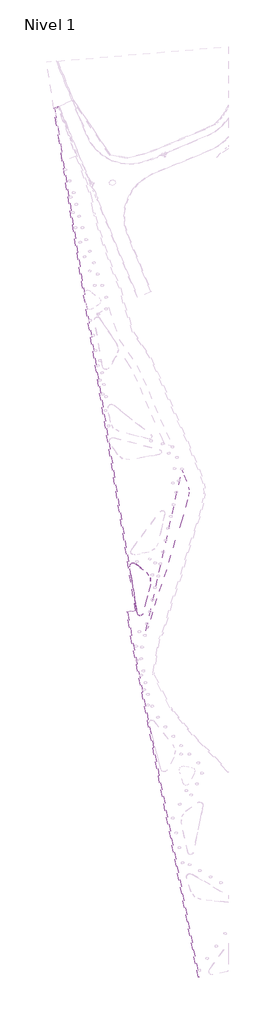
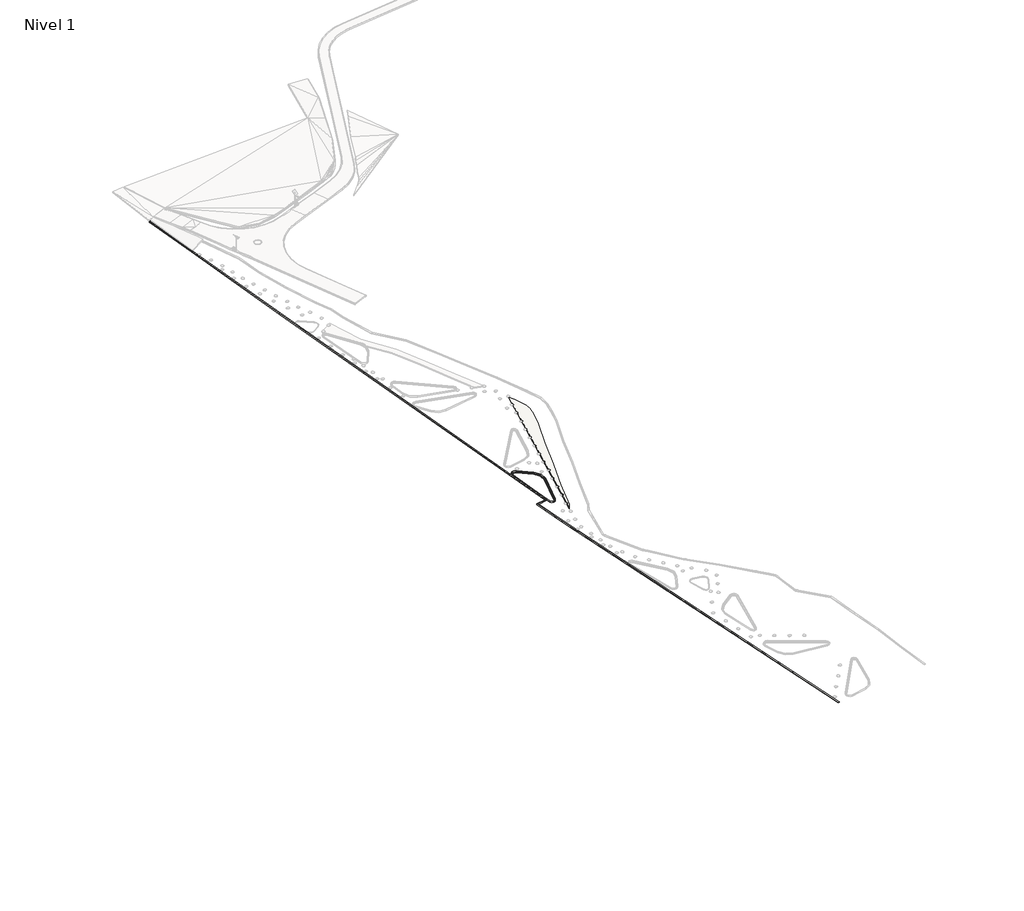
# One storey, part 24 of 45: 4 slabs.
"""IFC4 building model written with IfcOpenShell, lengths in millimetres."""

from ifc_helpers import new_model, si_unit, point, frame, frame_2d, origin, place, context, project, spatial, polyline, circle_curve, trimmed, segment, composite_curve, outline, extrude, faceted_brep, element, save
from ifc_brep_helpers import plane_surface, cylinder_surface, revolved_surface, advanced_brep

model = new_model("IFC4")

# Units and contexts
model_context = context("Model", 3, world=origin())
ifc_project = project(units=[si_unit("LENGTHUNIT", "METRE", prefix="MILLI")], contexts=[model_context])

# Site, building, storey
site = spatial("IfcSite", under=ifc_project)
building = spatial("IfcBuilding", under=site)
storey = spatial("IfcBuildingStorey", under=building, Name="Nivel 1", Elevation=0.0)

# Slabs
placement = place(None, origin())
element("IfcSlab", 1, ObjectType="Chilca", at=placement, inside=storey, context=model_context, shape_type="SweptSolid", body=[
    extrude(outline(polyline([(-342390.3113865, 278379.0355498), (-341710.2127864, 276709.9629907), (-340272.4821042, 272784.9727819), (-340145.4888071, 271013.0021801), (-340555.1233673, 268580.180625), (-341879.159472, 263632.5932877), (-344759.6066117, 255220.7119992), (-347573.6036676, 245605.4931419), (-350749.1086987, 236127.2612741), (-353439.4417813, 227024.3773913), (-354243.1568311, 225601.5487461), (-342390.3113865, 278379.0355498)])), frame((0.0, 0.0, 3200.0), z_axis=(0.0, 0.0, 1.0), x_axis=(1.0, 0.0, 0.0)), (0.0, 0.0, 1.0), 300.0),
])
element("IfcSlab", 2, ObjectType="Tierra de Chacra (20cm)", at=placement, inside=storey, context=model_context, shape_type="AdvancedBrep", body=[
    advanced_brep(
    [(-356995.0923187, 231145.6799667, 3000.0), (-359547.7997085, 246652.9712225, 3000.0), (-357855.6585117, 247643.3083019, 3000.0), (-354160.6678362, 244686.7698858, 3000.0), (-352862.2050924, 240743.8642195, 3000.0), (-355432.5430357, 231070.1864985, 3000.0), (-359251.783564, 246701.6994354, 3000.0), (-356699.0761686, 231194.4081813, 3000.0), (-355722.4828668, 231147.2247636, 3000.0), (-353152.1449235, 240820.9024847, 3000.0), (-354348.0974508, 244452.5261247, 3000.0), (-358043.1006716, 247409.074579, 3000.0), (-356995.0923187, 231145.6799667, 3200.0), (-355432.5430357, 231070.1864985, 3200.0), (-352862.2050924, 240743.8642195, 3200.0), (-354160.6678362, 244686.7698858, 3200.0), (-357855.6585116, 247643.3083018, 3200.0), (-359547.7997085, 246652.9712225, 3200.0), (-359251.7835582, 246701.699436, 3200.0), (-358043.1006716, 247409.074579, 3200.0), (-354348.0974508, 244452.5261247, 3200.0), (-353152.1449235, 240820.9024847, 3200.0), (-355722.4828668, 231147.2247636, 3200.0), (-356699.0761686, 231194.4081813, 3200.0)],
    [
        (0, 1),
        (1, 2, circle_curve(frame((-358511.7431813, 246823.51997, 3000.0), z_axis=(0.0, 0.0, -1.0), x_axis=(-0.4413958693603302, -0.8973124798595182, 0.0)), 1050.0000013)),
        (2, 3),
        (3, 4, circle_curve(frame((-356534.7762885, 241719.6822452, 3000.0), z_axis=(0.0, 0.0, -1.0), x_axis=(-0.4413958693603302, -0.8973124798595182, 0.0)), 3800.0000013)),
        (4, 5),
        (5, 0, circle_curve(frame((-356205.7159186, 231275.6218722, 3000.0), z_axis=(0.0, 0.0, -1.0), x_axis=(-0.4413958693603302, -0.8973124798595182, 0.0)), 799.9999998)),
        (6, 7),
        (7, 8, circle_curve(frame((-356205.7159186, 231275.6218722, 3000.0), z_axis=(0.0, 0.0, 1.0), x_axis=(-0.4413958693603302, -0.8973124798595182, 0.0)), 499.9999998)),
        (8, 9),
        (9, 10, circle_curve(frame((-356534.7762885, 241719.6822452, 3000.0), z_axis=(0.0, 0.0, 1.0), x_axis=(-0.4413958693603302, -0.8973124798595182, 0.0)), 3500.0000013)),
        (10, 11),
        (11, 6, circle_curve(frame((-358511.7431813, 246823.51997, 3000.0), z_axis=(0.0, 0.0, 1.0), x_axis=(-0.4413958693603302, -0.8973124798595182, 0.0)), 750.0000013)),
        (12, 13, circle_curve(frame((-356205.7159186, 231275.6218722, 3200.0), z_axis=(0.0, 0.0, 1.0), x_axis=(-0.4413958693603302, -0.8973124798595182, 0.0)), 799.9999998)),
        (13, 14),
        (14, 15, circle_curve(frame((-356534.7762885, 241719.6822452, 3200.0), z_axis=(0.0, 0.0, 1.0), x_axis=(-0.4413958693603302, -0.8973124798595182, 0.0)), 3800.0000013)),
        (15, 16),
        (16, 17, circle_curve(frame((-358511.7431813, 246823.51997, 3200.0), z_axis=(0.0, 0.0, 1.0), x_axis=(-0.4413958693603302, -0.8973124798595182, 0.0)), 1050.0000013)),
        (17, 12),
        (18, 19, circle_curve(frame((-358511.7431813, 246823.51997, 3200.0), z_axis=(0.0, 0.0, -1.0), x_axis=(-0.4413958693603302, -0.8973124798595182, 0.0)), 750.0000013)),
        (19, 20),
        (20, 21, circle_curve(frame((-356534.7762885, 241719.6822452, 3200.0), z_axis=(0.0, 0.0, -1.0), x_axis=(-0.4413958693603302, -0.8973124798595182, 0.0)), 3500.0000013)),
        (21, 22),
        (22, 23, circle_curve(frame((-356205.7159186, 231275.6218722, 3200.0), z_axis=(0.0, 0.0, -1.0), x_axis=(-0.4413958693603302, -0.8973124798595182, 0.0)), 499.9999998)),
        (23, 18),
        (11, 19),
        (18, 6),
        (10, 20),
        (9, 21),
        (8, 22),
        (7, 23),
        (5, 13),
        (12, 0),
        (4, 14),
        (3, 15),
        (2, 16),
        (1, 17),
    ],
    [
        plane_surface(frame((-356699.0761686, 231194.4081813, 3000.0), z_axis=(0.0, 0.0, -1.0), x_axis=(0.16242738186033, -0.9867205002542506, 0.0))),
        plane_surface(frame((-356699.0761686, 231194.4081813, 3200.0), z_axis=(0.0, 0.0, 1.0), x_axis=(-0.16242738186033, 0.9867205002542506, 0.0))),
        revolved_surface(polyline([(-358842.79008389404, 246150.53560893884, 3200.0), (-358842.79008389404, 246150.53560893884, 3000.0)]), (-358511.7431813, 246823.51997, 3200.0), (0.0, 0.0, 1.0)),
        plane_surface(frame((-354348.0974508, 244452.5261247, 3000.0), z_axis=(-0.624765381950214, -0.7808125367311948, 0.0), x_axis=(0.0, 0.0, 1.0))),
        revolved_surface(polyline([(-358079.661831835, 238579.08856452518, 3200.0), (-358079.661831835, 238579.08856452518, 3000.0)]), (-356534.7762885, 241719.6822452, 3200.0), (0.0, 0.0, 1.0)),
        plane_surface(frame((-355722.4828668, 231147.2247636, 3000.0), z_axis=(-0.9664661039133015, 0.2567942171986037, 0.0), x_axis=(0.0, 0.0, 1.0))),
        revolved_surface(polyline([(-356426.4138531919, 230826.9656324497, 3200.0), (-356426.4138531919, 230826.9656324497, 3000.0)]), (-356205.7159186, 231275.6218722, 3200.0), (0.0, 0.0, 1.0)),
        plane_surface(frame((-359251.783564, 246701.6994354, 3000.0), z_axis=(0.9867205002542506, 0.16242738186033, 0.0), x_axis=(0.0, 0.0, 1.0))),
        cylinder_surface(frame((-356205.7159186, 231275.6218722, 0.0), z_axis=(0.0, 0.0, -1.0), x_axis=(-0.4413958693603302, -0.8973124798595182, 0.0)), 799.9999998),
        plane_surface(frame((-352862.2050924, 240743.8642195, 3000.0), z_axis=(0.9664661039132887, -0.25679421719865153, 0.0), x_axis=(0.0, 0.0, 1.0))),
        cylinder_surface(frame((-356534.7762885, 241719.6822452, 0.0), z_axis=(0.0, 0.0, -1.0), x_axis=(-0.4413958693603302, -0.8973124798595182, 0.0)), 3800.0000013),
        plane_surface(frame((-357855.6585116, 247643.3083018, 3000.0), z_axis=(0.62476538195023, 0.7808125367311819, 0.0), x_axis=(0.0, 0.0, 1.0))),
        cylinder_surface(frame((-358511.7431813, 246823.51997, 0.0), z_axis=(0.0, 0.0, -1.0), x_axis=(-0.4413958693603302, -0.8973124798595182, 0.0)), 1050.0000013),
        plane_surface(frame((-356995.0923187, 231145.6799667, 3000.0), z_axis=(-0.9867205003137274, -0.1624273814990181, 0.0), x_axis=(0.0, 0.0, 1.0))),
    ],
    [
        (0, [[1, 2, 3, 4, 5, 6], [7, 8, 9, 10, 11, 12]]),
        (1, [[13, 14, 15, 16, 17, 18], [19, 20, 21, 22, 23, 24]]),
        (2, [[-12, 25, -19, 26]]),
        (3, [[-11, 27, -20, -25]]),
        (4, [[-10, 28, -21, -27]]),
        (5, [[-9, 29, -22, -28]]),
        (6, [[-8, 30, -23, -29]]),
        (7, [[-7, -26, -24, -30]]),
        (8, [[-6, 31, -13, 32]]),
        (9, [[-5, 33, -14, -31]]),
        (10, [[-4, 34, -15, -33]]),
        (11, [[-3, 35, -16, -34]]),
        (12, [[-2, 36, -17, -35]]),
        (13, [[-1, -32, -18, -36]]),
    ],
),
])
element("IfcSlab", 3, ObjectType="Bordillo", at=placement, inside=storey, context=model_context, shape_type="SweptSolid", body=[
    extrude(outline(composite_curve([segment(trimmed(circle_curve(frame_2d((-356205.6711333, 231275.6480803)), 899.9999998), [point((-355335.85164, 231044.5332849))], [point((-357093.7195833, 231129.4634367))], False, "CARTESIAN"), True, "CONTINUOUS"), segment(polyline([(-357093.7195833, 231129.4634367), (-359646.4269783, 246636.7546903)]), True, "CONTINUOUS"), segment(trimmed(circle_curve(frame_2d((-358511.6984033, 246823.5461792)), 1149.9999997), [point((-359646.4269783, 246636.7546903))], [point((-357793.2182142, 247721.4805961))], False, "CARTESIAN"), True, "CONTINUOUS"), segment(polyline([(-357793.2182142, 247721.4805961), (-354098.1465138, 244764.8773483)]), True, "CONTINUOUS"), segment(trimmed(circle_curve(frame_2d((-356534.7315052, 241719.7084526)), 3900.000003), [point((-354098.1465138, 244764.8773483))], [point((-352765.513697, 240718.2110047))], False, "CARTESIAN"), True, "CONTINUOUS"), segment(polyline([(-352765.513697, 240718.2110047), (-355335.85164, 231044.5332849)]), True, "CONTINUOUS")], self_intersect=False), holes=[composite_curve([segment(trimmed(circle_curve(frame_2d((-356534.7762885, 241719.6822452)), 3800.0000013), [point((-352862.2050924, 240743.8642195))], [point((-354160.6678362, 244686.7698858))], True, "CARTESIAN"), True, "CONTINUOUS"), segment(polyline([(-354160.6678362, 244686.7698858), (-357855.6585119, 247643.3083021)]), True, "CONTINUOUS"), segment(trimmed(circle_curve(frame_2d((-358511.7431813, 246823.51997)), 1050.0000013), [point((-357855.6585119, 247643.3083021))], [point((-359547.799708, 246652.9712192))], True, "CARTESIAN"), True, "CONTINUOUS"), segment(polyline([(-359547.799708, 246652.9712192), (-356995.0923187, 231145.679967)]), True, "CONTINUOUS"), segment(trimmed(circle_curve(frame_2d((-356205.7159186, 231275.6218722)), 799.9999998), [point((-356995.0923187, 231145.679967))], [point((-355432.5430357, 231070.1864985))], True, "CARTESIAN"), True, "CONTINUOUS"), segment(polyline([(-355432.5430357, 231070.1864985), (-352862.2050924, 240743.8642195)]), True, "CONTINUOUS")], self_intersect=False)]), frame((0.0, 0.0, 3100.0), z_axis=(0.0, 0.0, 1.0), x_axis=(1.0, 0.0, 0.0)), (0.0, 0.0, 1.0), 400.0),
])
element("IfcSlab", 4, ObjectType="Tierra de Chacra (20cm)", at=placement, inside=storey, context=model_context, shape_type="Brep", body=[
    faceted_brep([(-336765.5256785, 111571.8655647, 3100.0), (-336765.5256785, 111571.8655647, 3300.0), (-337063.5609684, 111532.4943392, 3300.0), (-337063.5609684, 111532.4943392, 3100.0), (-358837.4171426, 221304.677535, 3300.0), (-358837.4171426, 221304.677535, 3100.0), (-360690.1841309, 231783.6682547, 3300.0), (-360690.1841309, 231783.6682547, 3100.0), (-357736.8133654, 232312.8598535, 3300.0), (-357736.8133654, 232312.8598535, 3100.0), (-375925.346251, 342805.3037977, 3300.0), (-375925.346251, 342805.3037977, 3100.0), (-381828.8666909, 379865.5890297, 3300.0), (-381828.8666909, 379865.5890297, 3100.0), (-384614.7732345, 397354.5589056, 3300.0), (-384614.7732345, 397354.5589056, 3100.0), (-384281.2004252, 397167.5448479, 3100.0), (-384281.2004252, 397167.5448479, 3300.0), (-381532.6019897, 379912.7825337, 3300.0), (-381532.6019897, 379912.7825337, 3100.0), (-375629.203837, 342853.264979, 3300.0), (-375629.203837, 342853.264979, 3100.0), (-357392.7536979, 232069.7313422, 3300.0), (-357392.7536979, 232069.7313422, 3100.0), (-360342.6540046, 231541.161588, 3300.0), (-360342.6540046, 231541.161588, 3100.0), (-358542.5427409, 221359.9842755, 3300.0), (-358542.5427409, 221359.9842755, 3100.0), (-383335.0485111, 397881.9108712, 3763.3), (-383335.0485111, 397881.9108712, 3563.3), (-383047.1165027, 398000.5625686, 3763.3), (-383047.1165027, 398000.5625686, 3563.3), (-382943.1819933, 397718.9186216, 3775.7883403), (-382943.1819933, 397718.9186216, 3575.7883403), (-383220.7482418, 397604.5384709, 3775.8116597), (-383220.7482418, 397604.5384709, 3575.8116597)], [[[0, 1, 2, 3]], [[3, 2, 4, 5]], [[5, 4, 6, 7]], [[7, 6, 8, 9]], [[9, 8, 10, 11]], [[11, 10, 12, 13]], [[13, 12, 14, 15]], [[16, 17, 18, 19]], [[19, 18, 20, 21]], [[21, 20, 22, 23]], [[23, 22, 24, 25]], [[25, 24, 26, 27]], [[27, 26, 1, 0]], [[15, 14, 28, 29]], [[29, 28, 30, 31]], [[31, 30, 32, 33]], [[33, 32, 34, 35]], [[35, 34, 17, 16]], [[26, 24, 22, 20, 18, 17, 14, 12, 10, 8, 6, 4, 2, 1]], [[27, 0, 3, 5, 7, 9, 11, 13, 15, 16, 19, 21, 23, 25]], [[32, 30, 28]], [[34, 32, 28]], [[17, 34, 28]], [[33, 29, 31]], [[35, 29, 33]], [[16, 29, 35]], [[17, 28, 14]], [[16, 15, 29]]]),
])

save(model, "model.ifc")
